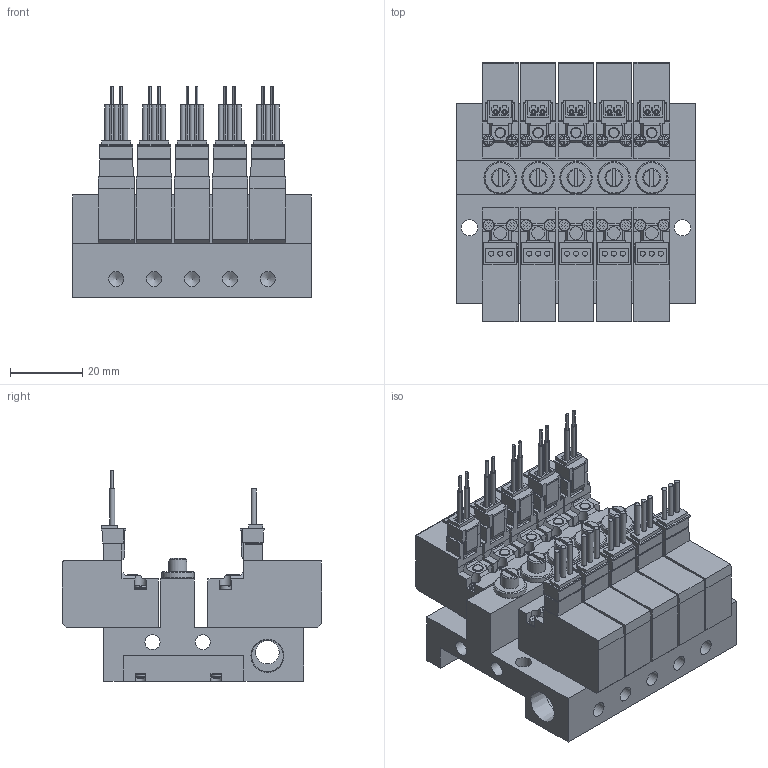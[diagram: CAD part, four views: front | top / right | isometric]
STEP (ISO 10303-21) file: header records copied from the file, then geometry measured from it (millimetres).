
FILE_DESCRIPTION(('STEP AP203'),'1');
FILE_NAME('1-L-4EZ-M05.stp','2025-05-09T01:24:47',(' '),(' '),'Spatial InterOp 3D',' ',' ');
FILE_SCHEMA(('CONFIG_CONTROL_DESIGN'));
Length unit declared in the file: millimetre
Products named in the file (57): PV1※1-L-4EZ-M05; BODY; PLATE; NEEDLE; BOLT; SOLENOID VALVE VOLTAGE PV; 42; 45; 48; 51; SOLENOID VALVE PV101-W
Assembly tree (56 placements, depth 3):
  PV1※1-L-4EZ-M05
    BODY
    PLATE
    PLATE
    NEEDLE
    BOLT
    BOLT
    BOLT
    BOLT
    BOLT
    BOLT
    SOLENOID VALVE VOLTAGE PV
      42
      45
      48
      51
    NEEDLE
    SOLENOID VALVE VOLTAGE PV
      42
      45
      48
      51
    NEEDLE
    SOLENOID VALVE VOLTAGE PV
      42
      45
      48
      51
    PLATE
    BOLT
    BOLT
    BOLT
    PLATE
    BOLT
    BOLT
    BOLT
    NEEDLE
    SOLENOID VALVE VOLTAGE PV
      42
      45
      48
      51
    NEEDLE
    SOLENOID VALVE VOLTAGE PV
      42
      45
      48
      51
    PLATE
    BOLT
    BOLT
    BOLT
    SOLENOID VALVE PV101-W
    SOLENOID VALVE PV101-W
    SOLENOID VALVE PV101-W
    SOLENOID VALVE PV101-W
    SOLENOID VALVE PV101-W
Bounding box: 66 x 71.8 x 58.25 mm (x, y, z)
Volume: 105997.5 mm3; surface area: 54332.6 mm2
Topology: 51 solids, 51 shells, 1955 faces, 5457 edges, 3721 vertices
Faces by surface type: plane 1451, cylinder 342, torus 80, bspline 50, cone 32
Full cylindrical faces by diameter (mm): 1.4 x15, 2 x15, 3 x25, 3.5 x5, 4.2 x12, 4.5 x2, 5 x5, 6.5 x1, 8.797 x2, 9 x5
Entity records: 65425 total; most frequent: CARTESIAN_POINT 11899, DIRECTION 10597, ORIENTED_EDGE 10464, EDGE_CURVE 5232, VERTEX_POINT 3640, LINE 3561, VECTOR 3561, AXIS2_PLACEMENT_3D 3518
